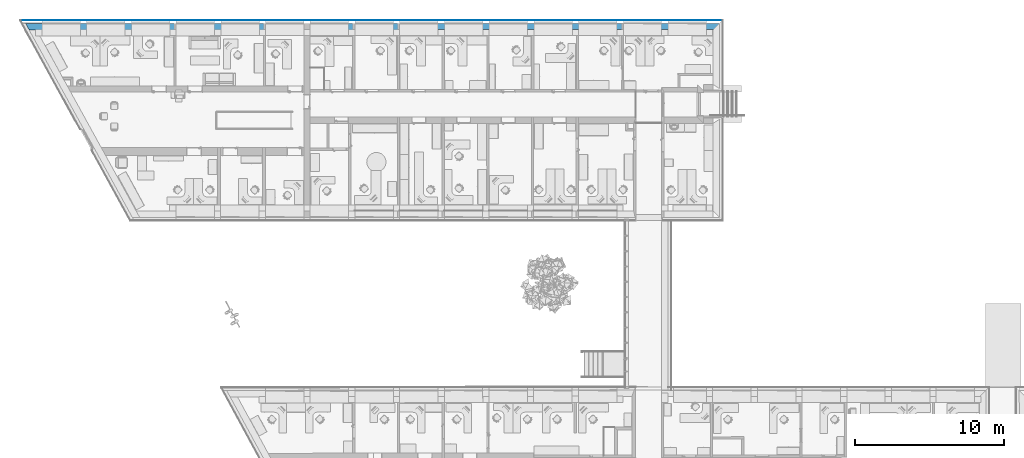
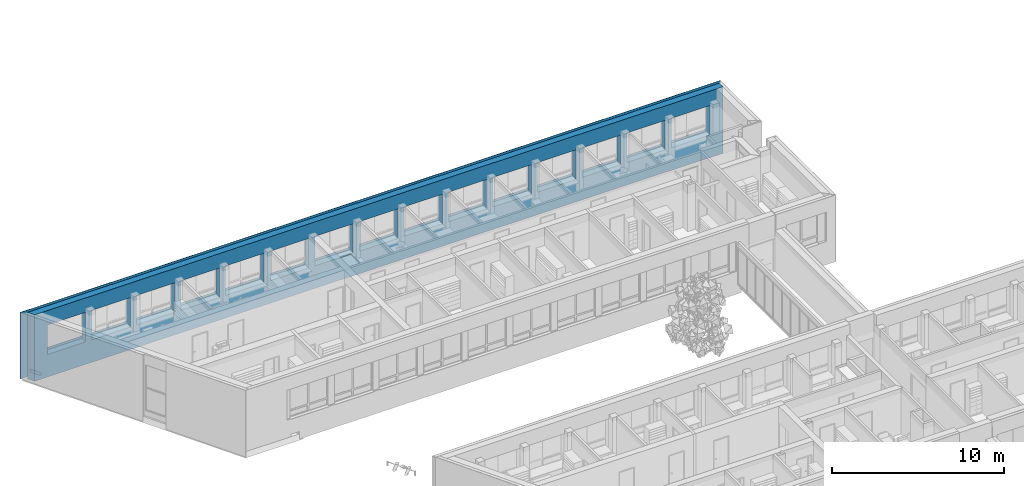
# One storey, part 104 of 194: 2 building element parts, 15 openings, 1 element without a shape of its own.
"""IFC2X3 building model written with IfcOpenShell, lengths in millimetres."""

from ifc_helpers import new_model, entity, si_unit, converted_unit, derived_unit, money_unit, direction, frame, origin_with_axes, origin_2d_with_axis, place, context, subcontext, project, spatial, polyline, rectangle, outline, extrude, boolean, faceted_brep, material, type_object, element, aggregate, save


model = new_model("IFC2X3")

# Units and contexts
model_context = context("Model", 3, precision=1e-05, world=origin_with_axes(), true_north=direction((0.0, 1.0)))
body_context = subcontext(model_context, "Body", "Model", "MODEL_VIEW")
ifc_project = project(units=[si_unit("LENGTHUNIT", "METRE", prefix="MILLI"), si_unit("AREAUNIT", "SQUARE_METRE"), si_unit("VOLUMEUNIT", "CUBIC_METRE"), converted_unit("PLANEANGLEUNIT", "DEGREE", entity("IfcPlaneAngleMeasure", 0.0174532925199), si_unit("PLANEANGLEUNIT", "RADIAN"), dimensions=[0, 0, 0, 0, 0, 0, 0]), si_unit("SOLIDANGLEUNIT", "STERADIAN"), money_unit("EUR"), converted_unit("TIMEUNIT", "Year", entity("IfcTimeMeasure", 31556926.0), si_unit("TIMEUNIT", "SECOND"), dimensions=[0, 0, 1, 0, 0, 0, 0]), si_unit("MASSUNIT", "GRAM", prefix="KILO"), si_unit("THERMODYNAMICTEMPERATUREUNIT", "DEGREE_CELSIUS"), si_unit("LUMINOUSINTENSITYUNIT", "LUMEN"), si_unit("ENERGYUNIT", "JOULE", prefix="MEGA"), derived_unit("THERMALCONDUCTANCEUNIT", [(si_unit("POWERUNIT", "WATT"), 1), (si_unit("LENGTHUNIT", "METRE"), -1), (si_unit("THERMODYNAMICTEMPERATUREUNIT", "KELVIN"), -1)]), derived_unit("SPECIFICHEATCAPACITYUNIT", [(si_unit("ENERGYUNIT", "JOULE"), 1), (si_unit("MASSUNIT", "GRAM", prefix="KILO"), -1), (si_unit("THERMODYNAMICTEMPERATUREUNIT", "KELVIN"), -1)]), derived_unit("MASSDENSITYUNIT", [(si_unit("MASSUNIT", "GRAM", prefix="KILO"), 1), (si_unit("VOLUMEUNIT", "CUBIC_METRE"), -1)])], contexts=[model_context])

# Site, building, storey
site_placement = place(None, origin_with_axes())
site = spatial("IfcSite", under=ifc_project, at=site_placement, Name="Site", CompositionType="ELEMENT")
building_placement = place(site_placement, origin_with_axes())
building = spatial("IfcBuilding", under=site, at=building_placement, Name="Building", CompositionType="ELEMENT")
storey_placement = place(building_placement, frame((0.0, 0.0, 3000.0), z_axis=(0.0, 0.0, 1.0), x_axis=(1.0, 0.0, 0.0)))
storey = spatial("IfcBuildingStorey", under=building, at=storey_placement, Name="2 KORRUS", CompositionType="ELEMENT", Elevation=3000.0)

# Wall, openings, building element parts
wall_type = type_object("IfcWallType", Name="VS4", PredefinedType="NOTDEFINED")
wall_placement = place(storey_placement, frame((-2936.56698537, 71913.6627221, -750.0), z_axis=(0.0, 0.0, 1.0), x_axis=(0.999999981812, 0.00019072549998, 0.0)))
wall = element("IfcWall", 1, at=wall_placement, inside=storey, type_object=wall_type, Name="VS4")
opening_1_placement = place(wall_placement, frame((2387.30604345, 0.0, 1600.0), z_axis=(0.0, 0.0, 1.0), x_axis=(1.0, 0.0, 0.0)))
element("IfcOpeningElement", 2, at=opening_1_placement, cuts=wall, Name="välisaken * Double Window 22", context=body_context, shape_type="SweptSolid", body=[
    extrude(rectangle(XDim=2580.0, YDim=2100.0, at=origin_2d_with_axis()), frame((-2.27373675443e-10, 19.9999999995, 1050.0), z_axis=(0.0, -1.0, 0.0), x_axis=(1.0, 0.0, 0.0)), (0.0, 0.0, 1.0), 1100.0),
    extrude(rectangle(XDim=2580.0, YDim=2100.0, at=origin_2d_with_axis()), frame((1.13686837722e-10, 19.9999999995, 1050.0), z_axis=(0.0, 1.0, 0.0), x_axis=(1.0, 0.0, 0.0)), (0.0, 0.0, 1.0), 850.000000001),
])
opening_2_placement = place(wall_placement, frame((5386.98222308, -9.09494701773e-10, 1600.0), z_axis=(0.0, 0.0, 1.0), x_axis=(1.0, 0.0, 0.0)))
element("IfcOpeningElement", 3, at=opening_2_placement, cuts=wall, Name="välisaken * Double Window 22", context=body_context, shape_type="SweptSolid", body=[
    extrude(rectangle(XDim=2580.0, YDim=2100.0, at=origin_2d_with_axis()), frame((0.0, 19.9999999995, 1050.0), z_axis=(0.0, -1.0, 0.0), x_axis=(1.0, 0.0, 0.0)), (0.0, 0.0, 1.0), 1100.0),
    extrude(rectangle(XDim=2580.0, YDim=2100.0, at=origin_2d_with_axis()), frame((1.13686837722e-10, 19.9999999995, 1050.0), z_axis=(0.0, 1.0, 0.0), x_axis=(1.0, 0.0, 0.0)), (0.0, 0.0, 1.0), 850.000000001),
])
opening_3_placement = place(wall_placement, frame((8387.44586357, 0.0, 1600.0), z_axis=(0.0, 0.0, 1.0), x_axis=(1.0, 0.0, 0.0)))
element("IfcOpeningElement", 4, at=opening_3_placement, cuts=wall, Name="välisaken * Double Window 22", context=body_context, shape_type="SweptSolid", body=[
    extrude(rectangle(XDim=2580.0, YDim=2100.0, at=origin_2d_with_axis()), frame((1.13686837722e-10, 19.9999999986, 1050.0), z_axis=(0.0, -1.0, 0.0), x_axis=(1.0, 0.0, 0.0)), (0.0, 0.0, 1.0), 1100.0),
    extrude(rectangle(XDim=2580.0, YDim=2100.0, at=origin_2d_with_axis()), frame((1.13686837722e-10, 19.9999999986, 1050.0), z_axis=(0.0, 1.0, 0.0), x_axis=(1.0, 0.0, 0.0)), (0.0, 0.0, 1.0), 850.000000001),
])
opening_4_placement = place(wall_placement, frame((11388.6073734, -9.09494701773e-10, 1600.0), z_axis=(0.0, 0.0, 1.0), x_axis=(1.0, 0.0, 0.0)))
element("IfcOpeningElement", 5, at=opening_4_placement, cuts=wall, Name="välisaken * Double Window 22", context=body_context, shape_type="SweptSolid", body=[
    extrude(rectangle(XDim=2580.0, YDim=2100.0, at=origin_2d_with_axis()), frame((-3.41060513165e-10, 19.9999999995, 1050.0), z_axis=(0.0, -1.0, 0.0), x_axis=(1.0, 0.0, 0.0)), (0.0, 0.0, 1.0), 1100.0),
    extrude(rectangle(XDim=2580.0, YDim=2100.0, at=origin_2d_with_axis()), frame((0.0, 19.9999999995, 1050.0), z_axis=(0.0, 1.0, 0.0), x_axis=(1.0, 0.0, 0.0)), (0.0, 0.0, 1.0), 850.000000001),
])
opening_5_placement = place(wall_placement, frame((14388.4341086, 0.0, 1600.0), z_axis=(0.0, 0.0, 1.0), x_axis=(1.0, 0.0, 0.0)))
element("IfcOpeningElement", 6, at=opening_5_placement, cuts=wall, Name="välisaken * Double Window 22", context=body_context, shape_type="SweptSolid", body=[
    extrude(rectangle(XDim=2580.0, YDim=2100.0, at=origin_2d_with_axis()), frame((-3.41060513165e-10, 19.9999999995, 1050.0), z_axis=(0.0, -1.0, 0.0), x_axis=(1.0, 0.0, 0.0)), (0.0, 0.0, 1.0), 1100.0),
    extrude(rectangle(XDim=2580.0, YDim=2100.0, at=origin_2d_with_axis()), frame((1.13686837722e-10, 19.9999999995, 1050.0), z_axis=(0.0, 1.0, 0.0), x_axis=(1.0, 0.0, 0.0)), (0.0, 0.0, 1.0), 850.000000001),
])
opening_6_placement = place(wall_placement, frame((17388.2756326, -9.09494701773e-10, 1600.0), z_axis=(0.0, 0.0, 1.0), x_axis=(1.0, 0.0, 0.0)))
element("IfcOpeningElement", 7, at=opening_6_placement, cuts=wall, Name="välisaken * Double Window 22", context=body_context, shape_type="SweptSolid", body=[
    extrude(rectangle(XDim=2580.0, YDim=2100.0, at=origin_2d_with_axis()), frame((-1.13686837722e-10, 19.9999999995, 1050.0), z_axis=(0.0, -1.0, 0.0), x_axis=(1.0, 0.0, 0.0)), (0.0, 0.0, 1.0), 1100.0),
    extrude(rectangle(XDim=2580.0, YDim=2100.0, at=origin_2d_with_axis()), frame((1.13686837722e-10, 19.9999999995, 1050.0), z_axis=(0.0, 1.0, 0.0), x_axis=(1.0, 0.0, 0.0)), (0.0, 0.0, 1.0), 850.000000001),
])
opening_7_placement = place(wall_placement, frame((20388.3520864, -9.09494701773e-10, 1600.0), z_axis=(0.0, 0.0, 1.0), x_axis=(1.0, 0.0, 0.0)))
element("IfcOpeningElement", 8, at=opening_7_placement, cuts=wall, Name="välisaken * Double Window 22", context=body_context, shape_type="SweptSolid", body=[
    extrude(rectangle(XDim=2580.0, YDim=2100.0, at=origin_2d_with_axis()), frame((1.13686837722e-10, 19.9999999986, 1050.0), z_axis=(0.0, -1.0, 0.0), x_axis=(1.0, 0.0, 0.0)), (0.0, 0.0, 1.0), 1100.0),
    extrude(rectangle(XDim=2580.0, YDim=2100.0, at=origin_2d_with_axis()), frame((1.13686837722e-10, 19.9999999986, 1050.0), z_axis=(0.0, 1.0, 0.0), x_axis=(1.0, 0.0, 0.0)), (0.0, 0.0, 1.0), 850.000000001),
])
opening_8_placement = place(wall_placement, frame((23386.7670895, 0.0, 1600.0), z_axis=(0.0, 0.0, 1.0), x_axis=(1.0, 0.0, 0.0)))
element("IfcOpeningElement", 9, at=opening_8_placement, cuts=wall, Name="välisaken * Double Window 22", context=body_context, shape_type="SweptSolid", body=[
    extrude(rectangle(XDim=2580.0, YDim=2100.0, at=origin_2d_with_axis()), frame((-3.41060513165e-10, 19.9999999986, 1050.0), z_axis=(0.0, -1.0, 0.0), x_axis=(1.0, 0.0, 0.0)), (0.0, 0.0, 1.0), 1100.0),
    extrude(rectangle(XDim=2580.0, YDim=2100.0, at=origin_2d_with_axis()), frame((1.13686837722e-10, 19.9999999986, 1050.0), z_axis=(0.0, 1.0, 0.0), x_axis=(1.0, 0.0, 0.0)), (0.0, 0.0, 1.0), 850.000000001),
])
opening_9_placement = place(wall_placement, frame((26386.7532323, -9.09494701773e-10, 1600.0), z_axis=(0.0, 0.0, 1.0), x_axis=(1.0, 0.0, 0.0)))
element("IfcOpeningElement", 10, at=opening_9_placement, cuts=wall, Name="välisaken * Double Window 22", context=body_context, shape_type="SweptSolid", body=[
    extrude(rectangle(XDim=2580.0, YDim=2100.0, at=origin_2d_with_axis()), frame((1.13686837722e-10, 19.9999999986, 1050.0), z_axis=(0.0, -1.0, 0.0), x_axis=(1.0, 0.0, 0.0)), (0.0, 0.0, 1.0), 1100.0),
    extrude(rectangle(XDim=2580.0, YDim=2100.0, at=origin_2d_with_axis()), frame((1.13686837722e-10, 19.9999999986, 1050.0), z_axis=(0.0, 1.0, 0.0), x_axis=(1.0, 0.0, 0.0)), (0.0, 0.0, 1.0), 850.000000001),
])
opening_10_placement = place(wall_placement, frame((29387.3322222, 0.0, 1600.0), z_axis=(0.0, 0.0, 1.0), x_axis=(1.0, 0.0, 0.0)))
element("IfcOpeningElement", 11, at=opening_10_placement, cuts=wall, Name="välisaken * Double Window 22", context=body_context, shape_type="SweptSolid", body=[
    extrude(rectangle(XDim=2580.0, YDim=2100.0, at=origin_2d_with_axis()), frame((0.0, 19.9999999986, 1050.0), z_axis=(0.0, -1.0, 0.0), x_axis=(1.0, 0.0, 0.0)), (0.0, 0.0, 1.0), 1100.0),
    extrude(rectangle(XDim=2580.0, YDim=2100.0, at=origin_2d_with_axis()), frame((2.27373675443e-10, 19.9999999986, 1050.0), z_axis=(0.0, 1.0, 0.0), x_axis=(1.0, 0.0, 0.0)), (0.0, 0.0, 1.0), 850.000000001),
])
opening_11_placement = place(wall_placement, frame((32386.6358886, -9.09494701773e-10, 1600.0), z_axis=(0.0, 0.0, 1.0), x_axis=(1.0, 0.0, 0.0)))
element("IfcOpeningElement", 12, at=opening_11_placement, cuts=wall, Name="välisaken * Double Window 22", context=body_context, shape_type="SweptSolid", body=[
    extrude(rectangle(XDim=2580.0, YDim=2100.0, at=origin_2d_with_axis()), frame((-1.13686837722e-10, 19.9999999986, 1050.0), z_axis=(0.0, -1.0, 0.0), x_axis=(1.0, 0.0, 0.0)), (0.0, 0.0, 1.0), 1100.0),
    extrude(rectangle(XDim=2580.0, YDim=2100.0, at=origin_2d_with_axis()), frame((1.13686837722e-10, 19.9999999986, 1050.0), z_axis=(0.0, 1.0, 0.0), x_axis=(1.0, 0.0, 0.0)), (0.0, 0.0, 1.0), 850.000000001),
])
opening_12_placement = place(wall_placement, frame((35386.5548812, 0.0, 1600.0), z_axis=(0.0, 0.0, 1.0), x_axis=(1.0, 0.0, 0.0)))
element("IfcOpeningElement", 13, at=opening_12_placement, cuts=wall, Name="välisaken * Double Window 22", context=body_context, shape_type="SweptSolid", body=[
    extrude(rectangle(XDim=2580.0, YDim=2100.0, at=origin_2d_with_axis()), frame((0.0, 19.9999999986, 1050.0), z_axis=(0.0, -1.0, 0.0), x_axis=(1.0, 0.0, 0.0)), (0.0, 0.0, 1.0), 1100.0),
    extrude(rectangle(XDim=2580.0, YDim=2100.0, at=origin_2d_with_axis()), frame((2.27373675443e-10, 19.9999999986, 1050.0), z_axis=(0.0, 1.0, 0.0), x_axis=(1.0, 0.0, 0.0)), (0.0, 0.0, 1.0), 850.000000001),
])
opening_13_placement = place(wall_placement, frame((38386.4737647, -9.09494701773e-10, 1600.0), z_axis=(0.0, 0.0, 1.0), x_axis=(1.0, 0.0, 0.0)))
element("IfcOpeningElement", 14, at=opening_13_placement, cuts=wall, Name="välisaken * Double Window 22", context=body_context, shape_type="SweptSolid", body=[
    extrude(rectangle(XDim=2580.0, YDim=2100.0, at=origin_2d_with_axis()), frame((-1.13686837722e-10, 19.9999999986, 1050.0), z_axis=(0.0, -1.0, 0.0), x_axis=(1.0, 0.0, 0.0)), (0.0, 0.0, 1.0), 1100.0),
    extrude(rectangle(XDim=2580.0, YDim=2100.0, at=origin_2d_with_axis()), frame((1.13686837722e-10, 19.9999999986, 1050.0), z_axis=(0.0, 1.0, 0.0), x_axis=(1.0, 0.0, 0.0)), (0.0, 0.0, 1.0), 850.000000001),
])
opening_14_placement = place(wall_placement, frame((41387.2471682, -9.09494701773e-10, 1600.0), z_axis=(0.0, 0.0, 1.0), x_axis=(1.0, 0.0, 0.0)))
element("IfcOpeningElement", 15, at=opening_14_placement, cuts=wall, Name="välisaken * Double Window 22", context=body_context, shape_type="SweptSolid", body=[
    extrude(rectangle(XDim=2580.0, YDim=2100.0, at=origin_2d_with_axis()), frame((-3.41060513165e-10, 19.9999999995, 1050.0), z_axis=(0.0, -1.0, 0.0), x_axis=(1.0, 0.0, 0.0)), (0.0, 0.0, 1.0), 1100.0),
    extrude(rectangle(XDim=2580.0, YDim=2100.0, at=origin_2d_with_axis()), frame((1.13686837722e-10, 19.9999999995, 1050.0), z_axis=(0.0, 1.0, 0.0), x_axis=(1.0, 0.0, 0.0)), (0.0, 0.0, 1.0), 850.000000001),
])
opening_15_placement = place(wall_placement, frame((44389.6590867, -9.09494701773e-10, 1600.0), z_axis=(0.0, 0.0, 1.0), x_axis=(1.0, 0.0, 0.0)))
element("IfcOpeningElement", 16, at=opening_15_placement, cuts=wall, Name="välisaken * Double Window 22", context=body_context, shape_type="SweptSolid", body=[
    extrude(rectangle(XDim=2580.0, YDim=2100.0, at=origin_2d_with_axis()), frame((0.0, 19.9999999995, 1050.0), z_axis=(0.0, -1.0, 0.0), x_axis=(1.0, 0.0, 0.0)), (0.0, 0.0, 1.0), 1100.0),
    extrude(rectangle(XDim=2580.0, YDim=2100.0, at=origin_2d_with_axis()), frame((0.0, 19.9999999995, 1050.0), z_axis=(0.0, 1.0, 0.0), x_axis=(1.0, 0.0, 0.0)), (0.0, 0.0, 1.0), 850.000000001),
])
ifc_material_1 = material(Name="Tellis - Konstuktsioon")
building_element_part_1_placement = place(wall_placement, origin_with_axes())
solid_1 = boolean("DIFFERENCE", boolean("DIFFERENCE", boolean("DIFFERENCE", boolean("DIFFERENCE", boolean("DIFFERENCE", boolean("DIFFERENCE", boolean("DIFFERENCE", boolean("DIFFERENCE", extrude(outline(polyline([(-372.194405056, -430.000000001), (46777.9835302, -430.000000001), (46777.9835302, -9.09494701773e-10), (-372.194405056, 0.0), (-372.194405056, -430.000000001)])), origin_with_axes(), (0.0, 0.0, 1.0), 4730.0), faceted_brep([(236.651317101, -430.000000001, 0.0), (236.651317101, -430.000000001, 4730.0), (-372.194405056, -430.000000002, 4730.0), (-372.194405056, -430.000000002, 0.0), (-2.27373675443e-10, 0.0, 4730.0), (-2.27373675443e-10, 0.0, 0.0), (-372.194405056, 0.0, 4730.0), (-372.194405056, 0.0, 0.0)], [[[0, 1, 2, 3]], [[4, 1, 0, 5]], [[1, 4, 6, 2]], [[2, 6, 7, 3]], [[5, 0, 3, 7]], [[4, 5, 7, 6]]])), faceted_brep([(46557.8820233, -9.09494701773e-10, 4730.0), (46557.983524, -430.0, 4730.0), (46777.9835302, -430.000000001, 4730.0), (46777.9835302, -9.09494701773e-10, 4730.0), (46557.983524, -430.0, 0.0), (46557.8820233, -9.09494701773e-10, 0.0), (46777.9835302, -430.000000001, 0.0), (46777.9835302, -9.09494701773e-10, 0.0)], [[[0, 1, 2, 3]], [[4, 1, 0, 5]], [[1, 4, 6, 2]], [[3, 2, 6, 7]], [[5, 0, 3, 7]], [[4, 5, 7, 6]]])), faceted_brep([(-228.288170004, 0.0, 367.85512503), (-228.288170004, 0.0, 4730.0), (-372.194405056, 0.0, 4730.0), (-372.194405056, 0.0, 0.0), (3090.96693668, 0.0, 0.0), (3090.96693668, 0.0, 367.85512503), (-338.358550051, 199.999999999, 4730.0), (-271.629779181, 78.7525384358, 367.85512503), (-271.629779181, 78.7525384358, 0.0), (-338.358550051, 199.999999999, 0.0), (-372.194405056, 200.0, 4730.0), (-372.194405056, 200.0, 0.0), (2822.84014016, 72.5206271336, 0.0), (2822.84014016, 72.5206271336, 367.85512503)], [[[0, 1, 2, 3, 4, 5]], [[6, 1, 0, 7, 8, 9]], [[1, 6, 10, 2]], [[2, 10, 11, 3]], [[12, 4, 3, 11, 9, 8]], [[5, 4, 12, 13]], [[5, 13, 7, 0]], [[12, 8, 7, 13]], [[6, 9, 11, 10]]])), faceted_brep([(42539.4240984, 0.0, 350.0), (42539.4240984, 0.0, 0.0), (43039.4243743, 0.0, 0.0), (43039.4243743, 0.0, 350.0), (42539.213995, 199.999999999, 350.0), (42539.213995, 199.999999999, 0.0), (43039.2142709, 199.999999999, 0.0), (43039.2142709, 199.999999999, 350.0)], [[[0, 1, 2, 3]], [[1, 0, 4, 5]], [[6, 2, 1, 5]], [[3, 2, 6, 7]], [[0, 3, 7, 4]], [[7, 6, 5, 4]]])), faceted_brep([(939.87847253, 200.0, 1630.0), (939.87847253, 200.0, 3730.0), (46143.8093933, 199.999999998, 3730.0), (46143.8093933, 199.999999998, 1630.0), (939.845651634, 27.9155355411, 1630.0), (939.845651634, 27.9155355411, 3730.0), (46143.7749281, 19.2939933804, 3730.0), (46143.7749281, 19.2939933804, 1630.0)], [[[0, 1, 2, 3]], [[1, 0, 4, 5]], [[2, 1, 5, 6]], [[3, 2, 6, 7]], [[0, 3, 7, 4]], [[4, 7, 6, 5]]])), faceted_brep([(45727.0411421, 199.999999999, 0.0), (45727.0411421, 199.999999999, 350.0), (46227.0411512, 199.999999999, 350.0), (46227.0411512, 199.999999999, 0.0), (45727.002997, -9.09494701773e-10, 0.0), (45727.002997, -9.09494701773e-10, 350.0), (46227.0030061, -9.09494701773e-10, 350.0), (46227.0030061, -9.09494701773e-10, 0.0)], [[[0, 1, 2, 3]], [[0, 4, 5, 1]], [[5, 6, 2, 1]], [[7, 3, 2, 6]], [[4, 0, 3, 7]], [[5, 4, 7, 6]]])), faceted_brep([(46757.8348193, 199.999999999, 4730.0), (46757.8820289, -9.09494701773e-10, 4730.0), (46777.9835302, -9.09494701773e-10, 4730.0), (46777.9835302, 199.999999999, 4730.0), (46757.8820289, -9.09494701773e-10, 0.0), (46757.8348193, 199.999999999, 0.0), (46777.9835302, -9.09494701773e-10, 0.0), (46777.9835302, 199.999999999, 0.0)], [[[0, 1, 2, 3]], [[4, 1, 0, 5]], [[1, 4, 6, 2]], [[3, 2, 6, 7]], [[5, 0, 3, 7]], [[4, 5, 7, 6]]])), faceted_brep([(25096.5710524, 0.0, 750.0), (25096.5710524, 0.0, 4000.0), (25060.6299138, -9.09494701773e-10, 4000.0), (25060.6299138, -9.09494701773e-10, 750.0), (25096.5710459, 0.0152273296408, 750.0), (25096.5710459, 0.0152273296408, 4000.0)], [[[0, 1, 2, 3]], [[1, 0, 4, 5]], [[2, 1, 5]], [[3, 2, 5, 4]], [[0, 3, 4]]]))
solid_2 = boolean("DIFFERENCE", boolean("DIFFERENCE", boolean("DIFFERENCE", boolean("DIFFERENCE", boolean("DIFFERENCE", boolean("DIFFERENCE", boolean("DIFFERENCE", boolean("DIFFERENCE", solid_1, faceted_brep([(40096.0405797, -9.09494701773e-10, 750.0), (40096.0405797, -9.09494701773e-10, 4000.0), (40041.9575605, 0.0, 4000.0), (40041.9575605, 0.0, 750.0), (40096.0405699, 0.0229135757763, 750.0), (40096.0405699, 0.0229135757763, 4000.0)], [[[0, 1, 2, 3]], [[1, 0, 4, 5]], [[2, 1, 5]], [[3, 2, 5, 4]], [[0, 3, 4]]])), faceted_brep([(10097.7987682, -9.09494701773e-10, 750.0), (10097.7987682, -9.09494701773e-10, 4000.0), (9947.79876819, 0.0, 4000.0), (9947.79876819, 0.0, 750.0), (10097.7987682, 0.0252426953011, 750.0), (10097.7987682, 0.0252426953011, 4000.0), (9947.79876819, 0.0252426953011, 4000.0), (9947.79876819, 0.0252426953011, 750.0)], [[[0, 1, 2, 3]], [[1, 0, 4, 5]], [[2, 1, 5, 6]], [[3, 2, 6, 7]], [[0, 3, 7, 4]], [[7, 6, 5, 4]]])), faceted_brep([(16098.3576398, 0.0, 750.0), (16098.3576398, 0.0, 4000.0), (15948.357637, -9.09494701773e-10, 4000.0), (15948.357637, -9.09494701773e-10, 750.0), (16098.3576432, 0.0180437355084, 750.0), (16098.3576432, 0.0180437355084, 4000.0), (15948.3576459, 0.0466525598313, 4000.0), (15948.3576459, 0.0466525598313, 750.0)], [[[0, 1, 2, 3]], [[1, 0, 4, 5]], [[2, 1, 5, 6]], [[3, 2, 6, 7]], [[0, 3, 7, 4]], [[7, 6, 5, 4]]])), faceted_brep([(19093.7955001, -9.09494701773e-10, 750.0), (19093.7955001, -9.09494701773e-10, 4000.0), (18673.7954924, 0.0, 4000.0), (18673.7954924, 0.0, 750.0), (19093.7955028, 0.0142862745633, 750.0), (19093.7955028, 0.0142862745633, 4000.0), (18673.7955104, 0.0944764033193, 4000.0), (18673.7955104, 0.0944764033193, 750.0)], [[[0, 1, 2, 3]], [[1, 0, 4, 5]], [[2, 1, 5, 6]], [[3, 2, 6, 7]], [[0, 3, 7, 4]], [[7, 6, 5, 4]]])), faceted_brep([(22096.5849096, -9.09494701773e-10, 750.0), (22096.5849096, -9.09494701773e-10, 4000.0), (22060.6144711, 0.0, 4000.0), (22060.6144711, 0.0, 750.0), (22096.5849031, 0.015239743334, 750.0), (22096.5849031, 0.015239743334, 4000.0)], [[[0, 1, 2, 3]], [[1, 0, 4, 5]], [[2, 1, 5]], [[3, 2, 5, 4]], [[0, 3, 4]]])), faceted_brep([(-361.187367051, 200.0, 0.0), (-361.187367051, 200.0, 4730.0), (-372.194405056, 200.0, 4730.0), (-372.194405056, 200.0, 0.0), (-372.194405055, 219.999999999, 4730.0), (-372.194405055, 219.999999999, 0.0)], [[[0, 1, 2, 3]], [[4, 1, 0, 5]], [[1, 4, 2]], [[4, 5, 3, 2]], [[5, 0, 3]]])), faceted_brep([(42539.213995, 199.999999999, 350.0), (42539.213995, 199.999999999, 0.0), (43039.2142709, 199.999999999, 0.0), (43039.2142709, 199.999999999, 350.0), (42539.1929846, 219.999999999, 0.0), (42539.1929846, 219.999999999, 350.0), (43039.1932605, 219.999999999, 0.0), (43039.1932605, 219.999999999, 350.0)], [[[0, 1, 2, 3]], [[4, 1, 0, 5]], [[6, 2, 1, 4]], [[2, 6, 7, 3]], [[7, 5, 0, 3]], [[7, 6, 4, 5]]])), faceted_brep([(939.87847253, 200.0, 1630.0), (46143.8093933, 199.999999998, 1630.0), (46143.8093933, 199.999999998, 3730.0), (939.87847253, 200.0, 3730.0), (939.88228704, 219.999999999, 1630.0), (46143.8132078, 219.999999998, 1630.0), (46143.8132078, 219.999999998, 3730.0), (939.88228704, 219.999999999, 3730.0)], [[[0, 1, 2, 3]], [[4, 5, 1, 0]], [[5, 6, 2, 1]], [[6, 7, 3, 2]], [[7, 4, 0, 3]], [[4, 7, 6, 5]]]))
building_element_part_1 = element("IfcBuildingElementPart", 17, at=building_element_part_1_placement, material=ifc_material_1, Name="Tellis - Konstuktsioon", context=body_context, shape_type="CSG", body=[
    boolean("DIFFERENCE", boolean("DIFFERENCE", solid_2, faceted_brep([(45727.0449566, 219.999999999, 0.0), (45727.0449566, 219.999999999, 350.0), (46227.0449657, 219.999999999, 350.0), (46227.0449657, 219.999999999, 0.0), (45727.0411421, 199.999999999, 0.0), (45727.0411421, 199.999999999, 350.0), (46227.0411512, 199.999999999, 350.0), (46227.0411512, 199.999999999, 0.0)], [[[0, 1, 2, 3]], [[1, 0, 4, 5]], [[2, 1, 5, 6]], [[3, 2, 6, 7]], [[4, 0, 3, 7]], [[5, 4, 7, 6]]])), faceted_brep([(46777.8300989, 219.999999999, 0.0), (46777.8300989, 219.999999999, 4730.0), (46777.9835302, 219.999999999, 4730.0), (46777.9835302, 219.999999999, 0.0), (46777.8348198, 199.999999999, 4730.0), (46777.8348198, 199.999999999, 0.0), (46777.9835302, 199.999999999, 4730.0), (46777.9835302, 199.999999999, 0.0)], [[[0, 1, 2, 3]], [[4, 1, 0, 5]], [[1, 4, 6, 2]], [[2, 6, 7, 3]], [[5, 0, 3, 7]], [[4, 5, 7, 6]]])),
])
ifc_material_2 = material(Name="Tellis - Viimistlus")
building_element_part_2_placement = place(wall_placement, origin_with_axes())
solid_3 = boolean("DIFFERENCE", boolean("DIFFERENCE", boolean("DIFFERENCE", boolean("DIFFERENCE", boolean("DIFFERENCE", boolean("DIFFERENCE", boolean("DIFFERENCE", boolean("DIFFERENCE", extrude(outline(polyline([(-372.194405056, 200.0), (46777.9835302, 199.999999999), (46777.9835302, 219.999999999), (-372.194405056, 220.0), (-372.194405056, 200.0)])), origin_with_axes(), (0.0, 0.0, 1.0), 4730.0), faceted_brep([(236.651317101, -430.000000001, 0.0), (236.651317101, -430.000000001, 4730.0), (-372.194405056, -430.000000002, 4730.0), (-372.194405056, -430.000000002, 0.0), (-2.27373675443e-10, 0.0, 4730.0), (-2.27373675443e-10, 0.0, 0.0), (-372.194405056, 0.0, 4730.0), (-372.194405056, 0.0, 0.0)], [[[0, 1, 2, 3]], [[4, 1, 0, 5]], [[1, 4, 6, 2]], [[2, 6, 7, 3]], [[5, 0, 3, 7]], [[4, 5, 7, 6]]])), faceted_brep([(46557.8820233, -9.09494701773e-10, 4730.0), (46557.983524, -430.0, 4730.0), (46777.9835302, -430.000000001, 4730.0), (46777.9835302, -9.09494701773e-10, 4730.0), (46557.983524, -430.0, 0.0), (46557.8820233, -9.09494701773e-10, 0.0), (46777.9835302, -430.000000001, 0.0), (46777.9835302, -9.09494701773e-10, 0.0)], [[[0, 1, 2, 3]], [[4, 1, 0, 5]], [[1, 4, 6, 2]], [[3, 2, 6, 7]], [[5, 0, 3, 7]], [[4, 5, 7, 6]]])), faceted_brep([(-228.288170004, 0.0, 367.85512503), (-228.288170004, 0.0, 4730.0), (-372.194405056, 0.0, 4730.0), (-372.194405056, 0.0, 0.0), (3090.96693668, 0.0, 0.0), (3090.96693668, 0.0, 367.85512503), (-338.358550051, 199.999999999, 4730.0), (-271.629779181, 78.7525384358, 367.85512503), (-271.629779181, 78.7525384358, 0.0), (-338.358550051, 199.999999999, 0.0), (-372.194405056, 200.0, 4730.0), (-372.194405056, 200.0, 0.0), (2822.84014016, 72.5206271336, 0.0), (2822.84014016, 72.5206271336, 367.85512503)], [[[0, 1, 2, 3, 4, 5]], [[6, 1, 0, 7, 8, 9]], [[1, 6, 10, 2]], [[2, 10, 11, 3]], [[12, 4, 3, 11, 9, 8]], [[5, 4, 12, 13]], [[5, 13, 7, 0]], [[12, 8, 7, 13]], [[6, 9, 11, 10]]])), faceted_brep([(42539.4240984, 0.0, 350.0), (42539.4240984, 0.0, 0.0), (43039.4243743, 0.0, 0.0), (43039.4243743, 0.0, 350.0), (42539.213995, 199.999999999, 350.0), (42539.213995, 199.999999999, 0.0), (43039.2142709, 199.999999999, 0.0), (43039.2142709, 199.999999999, 350.0)], [[[0, 1, 2, 3]], [[1, 0, 4, 5]], [[6, 2, 1, 5]], [[3, 2, 6, 7]], [[0, 3, 7, 4]], [[7, 6, 5, 4]]])), faceted_brep([(939.87847253, 200.0, 1630.0), (939.87847253, 200.0, 3730.0), (46143.8093933, 199.999999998, 3730.0), (46143.8093933, 199.999999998, 1630.0), (939.845651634, 27.9155355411, 1630.0), (939.845651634, 27.9155355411, 3730.0), (46143.7749281, 19.2939933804, 3730.0), (46143.7749281, 19.2939933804, 1630.0)], [[[0, 1, 2, 3]], [[1, 0, 4, 5]], [[2, 1, 5, 6]], [[3, 2, 6, 7]], [[0, 3, 7, 4]], [[4, 7, 6, 5]]])), faceted_brep([(45727.0411421, 199.999999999, 0.0), (45727.0411421, 199.999999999, 350.0), (46227.0411512, 199.999999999, 350.0), (46227.0411512, 199.999999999, 0.0), (45727.002997, -9.09494701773e-10, 0.0), (45727.002997, -9.09494701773e-10, 350.0), (46227.0030061, -9.09494701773e-10, 350.0), (46227.0030061, -9.09494701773e-10, 0.0)], [[[0, 1, 2, 3]], [[0, 4, 5, 1]], [[5, 6, 2, 1]], [[7, 3, 2, 6]], [[4, 0, 3, 7]], [[5, 4, 7, 6]]])), faceted_brep([(46757.8348193, 199.999999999, 4730.0), (46757.8820289, -9.09494701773e-10, 4730.0), (46777.9835302, -9.09494701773e-10, 4730.0), (46777.9835302, 199.999999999, 4730.0), (46757.8820289, -9.09494701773e-10, 0.0), (46757.8348193, 199.999999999, 0.0), (46777.9835302, -9.09494701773e-10, 0.0), (46777.9835302, 199.999999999, 0.0)], [[[0, 1, 2, 3]], [[4, 1, 0, 5]], [[1, 4, 6, 2]], [[3, 2, 6, 7]], [[5, 0, 3, 7]], [[4, 5, 7, 6]]])), faceted_brep([(25096.5710524, 0.0, 750.0), (25096.5710524, 0.0, 4000.0), (25060.6299138, -9.09494701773e-10, 4000.0), (25060.6299138, -9.09494701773e-10, 750.0), (25096.5710459, 0.0152273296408, 750.0), (25096.5710459, 0.0152273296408, 4000.0)], [[[0, 1, 2, 3]], [[1, 0, 4, 5]], [[2, 1, 5]], [[3, 2, 5, 4]], [[0, 3, 4]]]))
solid_4 = boolean("DIFFERENCE", boolean("DIFFERENCE", boolean("DIFFERENCE", boolean("DIFFERENCE", boolean("DIFFERENCE", boolean("DIFFERENCE", boolean("DIFFERENCE", boolean("DIFFERENCE", solid_3, faceted_brep([(40096.0405797, -9.09494701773e-10, 750.0), (40096.0405797, -9.09494701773e-10, 4000.0), (40041.9575605, 0.0, 4000.0), (40041.9575605, 0.0, 750.0), (40096.0405699, 0.0229135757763, 750.0), (40096.0405699, 0.0229135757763, 4000.0)], [[[0, 1, 2, 3]], [[1, 0, 4, 5]], [[2, 1, 5]], [[3, 2, 5, 4]], [[0, 3, 4]]])), faceted_brep([(10097.7987682, -9.09494701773e-10, 750.0), (10097.7987682, -9.09494701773e-10, 4000.0), (9947.79876819, 0.0, 4000.0), (9947.79876819, 0.0, 750.0), (10097.7987682, 0.0252426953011, 750.0), (10097.7987682, 0.0252426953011, 4000.0), (9947.79876819, 0.0252426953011, 4000.0), (9947.79876819, 0.0252426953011, 750.0)], [[[0, 1, 2, 3]], [[1, 0, 4, 5]], [[2, 1, 5, 6]], [[3, 2, 6, 7]], [[0, 3, 7, 4]], [[7, 6, 5, 4]]])), faceted_brep([(16098.3576398, 0.0, 750.0), (16098.3576398, 0.0, 4000.0), (15948.357637, -9.09494701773e-10, 4000.0), (15948.357637, -9.09494701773e-10, 750.0), (16098.3576432, 0.0180437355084, 750.0), (16098.3576432, 0.0180437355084, 4000.0), (15948.3576459, 0.0466525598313, 4000.0), (15948.3576459, 0.0466525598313, 750.0)], [[[0, 1, 2, 3]], [[1, 0, 4, 5]], [[2, 1, 5, 6]], [[3, 2, 6, 7]], [[0, 3, 7, 4]], [[7, 6, 5, 4]]])), faceted_brep([(19093.7955001, -9.09494701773e-10, 750.0), (19093.7955001, -9.09494701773e-10, 4000.0), (18673.7954924, 0.0, 4000.0), (18673.7954924, 0.0, 750.0), (19093.7955028, 0.0142862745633, 750.0), (19093.7955028, 0.0142862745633, 4000.0), (18673.7955104, 0.0944764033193, 4000.0), (18673.7955104, 0.0944764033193, 750.0)], [[[0, 1, 2, 3]], [[1, 0, 4, 5]], [[2, 1, 5, 6]], [[3, 2, 6, 7]], [[0, 3, 7, 4]], [[7, 6, 5, 4]]])), faceted_brep([(22096.5849096, -9.09494701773e-10, 750.0), (22096.5849096, -9.09494701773e-10, 4000.0), (22060.6144711, 0.0, 4000.0), (22060.6144711, 0.0, 750.0), (22096.5849031, 0.015239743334, 750.0), (22096.5849031, 0.015239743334, 4000.0)], [[[0, 1, 2, 3]], [[1, 0, 4, 5]], [[2, 1, 5]], [[3, 2, 5, 4]], [[0, 3, 4]]])), faceted_brep([(-361.187367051, 200.0, 0.0), (-361.187367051, 200.0, 4730.0), (-372.194405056, 200.0, 4730.0), (-372.194405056, 200.0, 0.0), (-372.194405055, 219.999999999, 4730.0), (-372.194405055, 219.999999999, 0.0)], [[[0, 1, 2, 3]], [[4, 1, 0, 5]], [[1, 4, 2]], [[4, 5, 3, 2]], [[5, 0, 3]]])), faceted_brep([(42539.213995, 199.999999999, 350.0), (42539.213995, 199.999999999, 0.0), (43039.2142709, 199.999999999, 0.0), (43039.2142709, 199.999999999, 350.0), (42539.1929846, 219.999999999, 0.0), (42539.1929846, 219.999999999, 350.0), (43039.1932605, 219.999999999, 0.0), (43039.1932605, 219.999999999, 350.0)], [[[0, 1, 2, 3]], [[4, 1, 0, 5]], [[6, 2, 1, 4]], [[2, 6, 7, 3]], [[7, 5, 0, 3]], [[7, 6, 4, 5]]])), faceted_brep([(939.87847253, 200.0, 1630.0), (46143.8093933, 199.999999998, 1630.0), (46143.8093933, 199.999999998, 3730.0), (939.87847253, 200.0, 3730.0), (939.88228704, 219.999999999, 1630.0), (46143.8132078, 219.999999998, 1630.0), (46143.8132078, 219.999999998, 3730.0), (939.88228704, 219.999999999, 3730.0)], [[[0, 1, 2, 3]], [[4, 5, 1, 0]], [[5, 6, 2, 1]], [[6, 7, 3, 2]], [[7, 4, 0, 3]], [[4, 7, 6, 5]]]))
building_element_part_2 = element("IfcBuildingElementPart", 18, at=building_element_part_2_placement, material=ifc_material_2, Name="Tellis - Viimistlus", context=body_context, shape_type="CSG", body=[
    boolean("DIFFERENCE", boolean("DIFFERENCE", solid_4, faceted_brep([(45727.0449566, 219.999999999, 0.0), (45727.0449566, 219.999999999, 350.0), (46227.0449657, 219.999999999, 350.0), (46227.0449657, 219.999999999, 0.0), (45727.0411421, 199.999999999, 0.0), (45727.0411421, 199.999999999, 350.0), (46227.0411512, 199.999999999, 350.0), (46227.0411512, 199.999999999, 0.0)], [[[0, 1, 2, 3]], [[1, 0, 4, 5]], [[2, 1, 5, 6]], [[3, 2, 6, 7]], [[4, 0, 3, 7]], [[5, 4, 7, 6]]])), faceted_brep([(46777.8300989, 219.999999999, 0.0), (46777.8300989, 219.999999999, 4730.0), (46777.9835302, 219.999999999, 4730.0), (46777.9835302, 219.999999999, 0.0), (46777.8348198, 199.999999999, 4730.0), (46777.8348198, 199.999999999, 0.0), (46777.9835302, 199.999999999, 4730.0), (46777.9835302, 199.999999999, 0.0)], [[[0, 1, 2, 3]], [[4, 1, 0, 5]], [[1, 4, 6, 2]], [[2, 6, 7, 3]], [[5, 0, 3, 7]], [[4, 5, 7, 6]]])),
])
aggregate(wall, [building_element_part_1, building_element_part_2])

save(model, "model.ifc")
